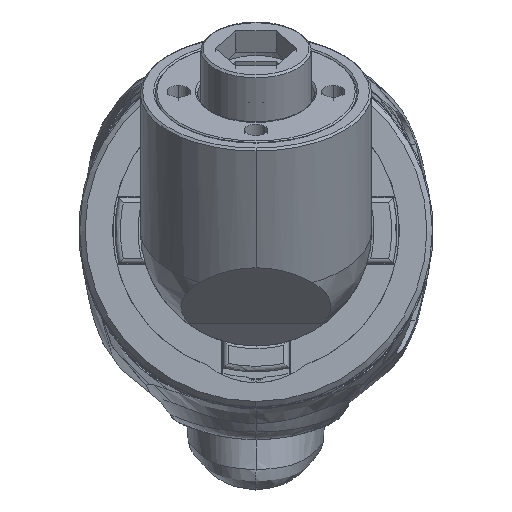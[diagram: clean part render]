
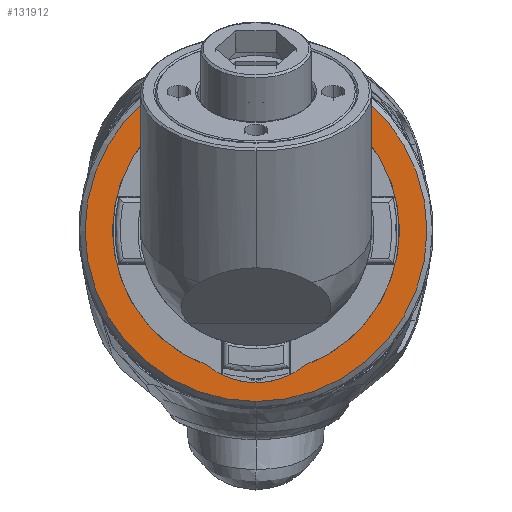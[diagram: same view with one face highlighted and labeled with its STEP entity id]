
A CAD part, top view. The second image highlights one B-rep face of the part: STEP entity #131912.
In plain terms, the highlighted planar face has unit normal (0, 0, 1).
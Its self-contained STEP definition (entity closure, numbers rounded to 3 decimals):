
#127171=CARTESIAN_POINT('',(0.,0.,-8.2));
#127172=DIRECTION('',(0.,0.,1.));
#127173=DIRECTION('',(0.,-1.,0.));
#127174=AXIS2_PLACEMENT_3D('',#127171,#127172,#127173);
#127185=CARTESIAN_POINT('',(0.,-6.8,-8.2));
#127186=DIRECTION('',(0.,0.,1.));
#127187=DIRECTION('',(-0.632,-0.775,0.));
#127188=AXIS2_PLACEMENT_3D('',#127185,#127186,#127187);
#127190=CARTESIAN_POINT('',(0.,0.,-8.2));
#127191=DIRECTION('',(0.,0.,1.));
#127192=DIRECTION('',(0.34,-0.94,0.));
#127193=AXIS2_PLACEMENT_3D('',#127190,#127191,#127192);
#127195=CARTESIAN_POINT('',(0.,0.,-8.2));
#127196=DIRECTION('',(0.,0.,1.));
#127197=DIRECTION('',(0.,1.,0.));
#127198=AXIS2_PLACEMENT_3D('',#127195,#127196,#127197);
#127200=CARTESIAN_POINT('',(0.,0.,-8.2));
#127201=DIRECTION('',(0.,0.,1.));
#127202=DIRECTION('',(0.,1.,0.));
#127203=AXIS2_PLACEMENT_3D('',#127200,#127201,#127202);
#131509=CARTESIAN_POINT('',(0.,13.,-8.2));
#131510=CARTESIAN_POINT('',(-4.426,-12.224,-8.2));
#131511=VERTEX_POINT('',#131509);
#131512=VERTEX_POINT('',#131510);
#131513=CARTESIAN_POINT('',(4.426,-12.224,-8.2));
#131514=VERTEX_POINT('',#131513);
#131515=CARTESIAN_POINT('',(0.,15.5,-8.2));
#131517=VERTEX_POINT('',#131515);
#131519=CARTESIAN_POINT('',(0.,-15.5,-8.2));
#131521=VERTEX_POINT('',#131519);
#131894=CARTESIAN_POINT('',(0.,0.,-8.2));
#131895=DIRECTION('',(0.,0.,-1.));
#131896=DIRECTION('',(0.,1.,0.));
#131897=AXIS2_PLACEMENT_3D('',#131894,#131895,#131896);
#131898=PLANE('',#131897);
#131899=ORIENTED_EDGE('',*,*,#131884,.F.);
#131901=ORIENTED_EDGE('',*,*,#131900,.F.);
#131902=EDGE_LOOP('',(#131899,#131901));
#131903=FACE_OUTER_BOUND('',#131902,.F.);
#131905=ORIENTED_EDGE('',*,*,#131904,.T.);
#131907=ORIENTED_EDGE('',*,*,#131906,.T.);
#131909=ORIENTED_EDGE('',*,*,#131908,.T.);
#131910=EDGE_LOOP('',(#131905,#131907,#131909));
#131911=FACE_BOUND('',#131910,.F.);
#131912=ADVANCED_FACE('',(#131903,#131911),#131898,.F.);
#127175=CIRCLE('',#127174,15.5);
#127189=CIRCLE('',#127188,7.);
#127194=CIRCLE('',#127193,13.);
#127199=CIRCLE('',#127198,13.);
#127204=CIRCLE('',#127203,15.5);
#131884=EDGE_CURVE('',#131521,#131517,#127175,.T.);
#131900=EDGE_CURVE('',#131517,#131521,#127204,.T.);
#131904=EDGE_CURVE('',#131512,#131514,#127189,.T.);
#131906=EDGE_CURVE('',#131514,#131511,#127194,.T.);
#131908=EDGE_CURVE('',#131511,#131512,#127199,.T.);
